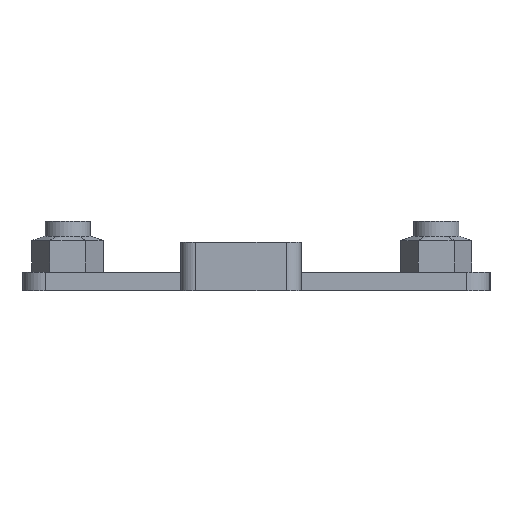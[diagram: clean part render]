
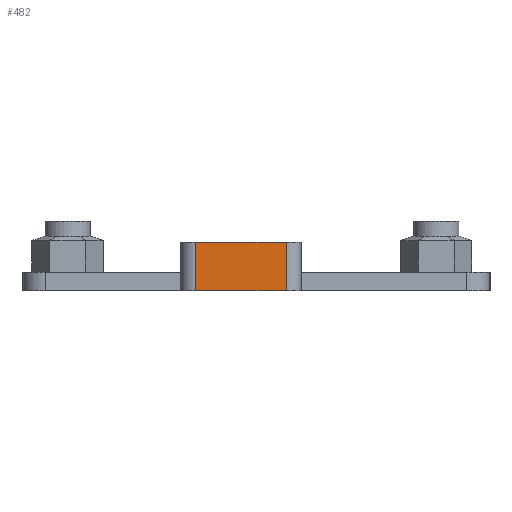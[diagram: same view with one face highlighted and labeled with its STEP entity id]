
A CAD part, left-side view. The second image highlights one B-rep face of the part: STEP entity #482.
In plain terms, the highlighted planar face has unit normal (-1, 0, 0).
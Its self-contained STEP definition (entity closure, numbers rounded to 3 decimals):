
#340 = EDGE_CURVE('',#341,#343,#345,.T.);
#341 = VERTEX_POINT('',#342);
#342 = CARTESIAN_POINT('',(-61.,-4.,6.5));
#343 = VERTEX_POINT('',#344);
#344 = CARTESIAN_POINT('',(-61.,8.,6.5));
#345 = LINE('',#346,#347);
#346 = CARTESIAN_POINT('',(-61.,-6.,6.5));
#347 = VECTOR('',#348,1.);
#348 = DIRECTION('',(0.,1.,0.));
#404 = VERTEX_POINT('',#405);
#405 = CARTESIAN_POINT('',(-61.,-4.,0.));
#414 = EDGE_CURVE('',#404,#341,#415,.T.);
#415 = LINE('',#416,#417);
#416 = CARTESIAN_POINT('',(-61.,-4.,0.));
#417 = VECTOR('',#418,1.);
#418 = DIRECTION('',(0.,0.,1.));
#482 = ADVANCED_FACE('',(#483),#501,.F.);
#483 = FACE_BOUND('',#484,.F.);
#484 = EDGE_LOOP('',(#485,#486,#487,#495));
#485 = ORIENTED_EDGE('',*,*,#340,.F.);
#486 = ORIENTED_EDGE('',*,*,#414,.F.);
#487 = ORIENTED_EDGE('',*,*,#488,.T.);
#488 = EDGE_CURVE('',#404,#489,#491,.T.);
#489 = VERTEX_POINT('',#490);
#490 = CARTESIAN_POINT('',(-61.,8.,0.));
#491 = LINE('',#492,#493);
#492 = CARTESIAN_POINT('',(-61.,-6.,0.));
#493 = VECTOR('',#494,1.);
#494 = DIRECTION('',(0.,1.,0.));
#495 = ORIENTED_EDGE('',*,*,#496,.T.);
#496 = EDGE_CURVE('',#489,#343,#497,.T.);
#497 = LINE('',#498,#499);
#498 = CARTESIAN_POINT('',(-61.,8.,0.));
#499 = VECTOR('',#500,1.);
#500 = DIRECTION('',(0.,0.,1.));
#501 = PLANE('',#502);
#502 = AXIS2_PLACEMENT_3D('',#503,#504,#505);
#503 = CARTESIAN_POINT('',(-61.,-6.,0.));
#504 = DIRECTION('',(1.,0.,0.));
#505 = DIRECTION('',(0.,0.,1.));
